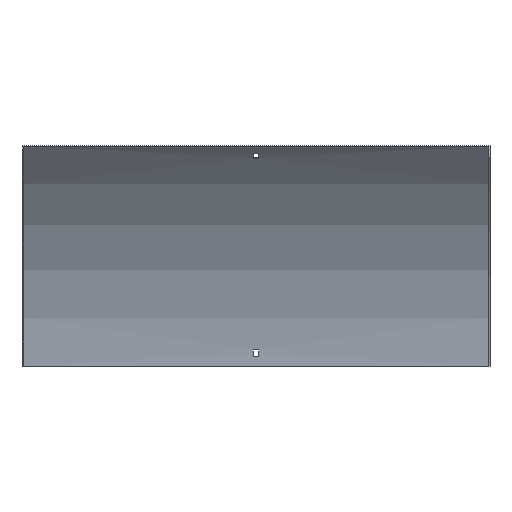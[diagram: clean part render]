
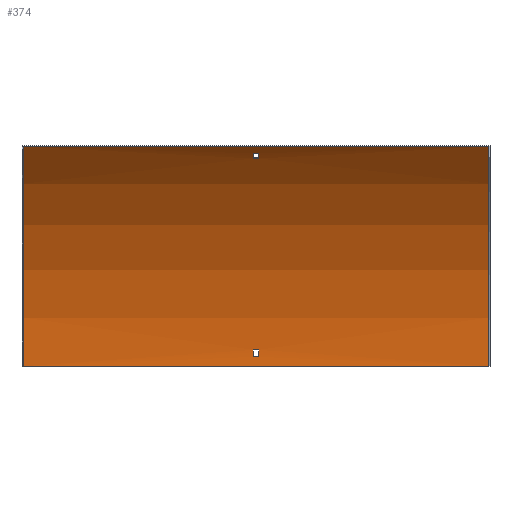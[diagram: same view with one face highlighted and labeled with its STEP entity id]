
A CAD part, front view. The second image highlights one B-rep face of the part: STEP entity #374.
In plain terms, the highlighted cylindrical face has radius 400 mm (diameter 800 mm), a partial arc.
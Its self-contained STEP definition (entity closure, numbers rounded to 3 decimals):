
#8 = EDGE_CURVE ( 'NONE', #412, #247, #390, .T. ) ;
#27 = DIRECTION ( 'NONE',  ( -1., 0., 0. ) ) ;
#32 = CARTESIAN_POINT ( 'NONE',  ( 301.5, -104.198, 267.603 ) ) ;
#58 = CARTESIAN_POINT ( 'NONE',  ( 301.5, -2.052, 21. ) ) ;
#59 = EDGE_CURVE ( 'NONE', #394, #255, #71, .T. ) ;
#63 = AXIS2_PLACEMENT_3D ( 'NONE', #83, #270, #222 ) ;
#71 = CIRCLE ( 'NONE', #576, 400. ) ;
#74 = DIRECTION ( 'NONE',  ( -1., 0., 0. ) ) ;
#75 = DIRECTION ( 'NONE',  ( -1., 0., 0. ) ) ;
#76 = CARTESIAN_POINT ( 'NONE',  ( -300., -1.5, 0. ) ) ;
#79 = FACE_BOUND ( 'NONE', #248, .T. ) ;
#83 = CARTESIAN_POINT ( 'NONE',  ( 301.5, -401.5, 0. ) ) ;
#86 = EDGE_CURVE ( 'NONE', #483, #394, #477, .T. ) ;
#87 = FACE_BOUND ( 'NONE', #434, .T. ) ;
#102 = ORIENTED_EDGE ( 'NONE', *, *, #86, .F. ) ;
#104 = VECTOR ( 'NONE', #142, 1000. ) ;
#107 = DIRECTION ( 'NONE',  ( 1., 0., 0. ) ) ;
#108 = VERTEX_POINT ( 'NONE', #404 ) ;
#115 = CARTESIAN_POINT ( 'NONE',  ( -3.25, -104.198, 267.603 ) ) ;
#118 = CARTESIAN_POINT ( 'NONE',  ( 300., -118.657, 282.843 ) ) ;
#121 = AXIS2_PLACEMENT_3D ( 'NONE', #174, #271, #126 ) ;
#126 = DIRECTION ( 'NONE',  ( 0., 0., -1. ) ) ;
#139 = FACE_OUTER_BOUND ( 'NONE', #216, .T. ) ;
#142 = DIRECTION ( 'NONE',  ( 1., 0., 0. ) ) ;
#150 = EDGE_CURVE ( 'NONE', #283, #412, #424, .T. ) ;
#156 = AXIS2_PLACEMENT_3D ( 'NONE', #402, #353, #251 ) ;
#160 = EDGE_CURVE ( 'NONE', #198, #561, #400, .T. ) ;
#166 = DIRECTION ( 'NONE',  ( 0., 0., -1. ) ) ;
#174 = CARTESIAN_POINT ( 'NONE',  ( -300., -401.5, 0. ) ) ;
#176 = ORIENTED_EDGE ( 'NONE', *, *, #301, .F. ) ;
#179 = DIRECTION ( 'NONE',  ( 0., 0., 1. ) ) ;
#184 = VERTEX_POINT ( 'NONE', #549 ) ;
#192 = ORIENTED_EDGE ( 'NONE', *, *, #457, .T. ) ;
#195 = EDGE_CURVE ( 'NONE', #199, #108, #284, .T. ) ;
#196 = CARTESIAN_POINT ( 'NONE',  ( 3.25, -401.5, 0. ) ) ;
#198 = VERTEX_POINT ( 'NONE', #76 ) ;
#199 = VERTEX_POINT ( 'NONE', #415 ) ;
#204 = AXIS2_PLACEMENT_3D ( 'NONE', #539, #373, #380 ) ;
#216 = EDGE_LOOP ( 'NONE', ( #292, #360, #304, #409 ) ) ;
#221 = CARTESIAN_POINT ( 'NONE',  ( -3.25, -1.68, 12. ) ) ;
#222 = DIRECTION ( 'NONE',  ( 0., 0., 1. ) ) ;
#233 = VECTOR ( 'NONE', #345, 1000. ) ;
#235 = VECTOR ( 'NONE', #501, 1000. ) ;
#243 = ORIENTED_EDGE ( 'NONE', *, *, #367, .F. ) ;
#247 = VERTEX_POINT ( 'NONE', #464 ) ;
#248 = EDGE_LOOP ( 'NONE', ( #243, #176, #329, #102 ) ) ;
#251 = DIRECTION ( 'NONE',  ( 0., 0., -1. ) ) ;
#252 = CIRCLE ( 'NONE', #204, 400. ) ;
#255 = VERTEX_POINT ( 'NONE', #333 ) ;
#256 = DIRECTION ( 'NONE',  ( -1., 0., 0. ) ) ;
#270 = DIRECTION ( 'NONE',  ( -1., 0., 0. ) ) ;
#271 = DIRECTION ( 'NONE',  ( 1., 0., 0. ) ) ;
#283 = VERTEX_POINT ( 'NONE', #115 ) ;
#284 = CIRCLE ( 'NONE', #342, 400. ) ;
#286 = VECTOR ( 'NONE', #75, 1000. ) ;
#287 = CARTESIAN_POINT ( 'NONE',  ( -300., -118.657, 282.843 ) ) ;
#292 = ORIENTED_EDGE ( 'NONE', *, *, #160, .F. ) ;
#299 = LINE ( 'NONE', #58, #300 ) ;
#300 = VECTOR ( 'NONE', #256, 1000. ) ;
#301 = EDGE_CURVE ( 'NONE', #255, #518, #299, .T. ) ;
#304 = ORIENTED_EDGE ( 'NONE', *, *, #195, .T. ) ;
#310 = CARTESIAN_POINT ( 'NONE',  ( 300., -1.5, 0. ) ) ;
#326 = CARTESIAN_POINT ( 'NONE',  ( 3.25, -1.68, 12. ) ) ;
#329 = ORIENTED_EDGE ( 'NONE', *, *, #59, .F. ) ;
#332 = LINE ( 'NONE', #310, #286 ) ;
#333 = CARTESIAN_POINT ( 'NONE',  ( 3.25, -2.052, 21. ) ) ;
#342 = AXIS2_PLACEMENT_3D ( 'NONE', #498, #544, #593 ) ;
#345 = DIRECTION ( 'NONE',  ( 1., 0., 0. ) ) ;
#351 = ORIENTED_EDGE ( 'NONE', *, *, #150, .T. ) ;
#353 = DIRECTION ( 'NONE',  ( 1., 0., 0. ) ) ;
#360 = ORIENTED_EDGE ( 'NONE', *, *, #378, .F. ) ;
#367 = EDGE_CURVE ( 'NONE', #518, #483, #252, .T. ) ;
#373 = DIRECTION ( 'NONE',  ( -1., 0., 0. ) ) ;
#374 = ADVANCED_FACE ( 'NONE', ( #79, #139, #87 ), #580, .F. ) ;
#378 = EDGE_CURVE ( 'NONE', #199, #198, #332, .T. ) ;
#380 = DIRECTION ( 'NONE',  ( 0., 0., 1. ) ) ;
#390 = LINE ( 'NONE', #587, #104 ) ;
#394 = VERTEX_POINT ( 'NONE', #326 ) ;
#400 = CIRCLE ( 'NONE', #121, 400. ) ;
#402 = CARTESIAN_POINT ( 'NONE',  ( -3.25, -401.5, 0. ) ) ;
#404 = CARTESIAN_POINT ( 'NONE',  ( 300., -118.657, 282.843 ) ) ;
#409 = ORIENTED_EDGE ( 'NONE', *, *, #478, .T. ) ;
#412 = VERTEX_POINT ( 'NONE', #548 ) ;
#415 = CARTESIAN_POINT ( 'NONE',  ( 300., -1.5, 0. ) ) ;
#424 = CIRCLE ( 'NONE', #156, 400. ) ;
#434 = EDGE_LOOP ( 'NONE', ( #192, #351, #572, #560 ) ) ;
#443 = CARTESIAN_POINT ( 'NONE',  ( 301.5, -1.68, 12. ) ) ;
#453 = CARTESIAN_POINT ( 'NONE',  ( -3.25, -2.052, 21. ) ) ;
#456 = AXIS2_PLACEMENT_3D ( 'NONE', #508, #27, #179 ) ;
#457 = EDGE_CURVE ( 'NONE', #184, #283, #547, .T. ) ;
#464 = CARTESIAN_POINT ( 'NONE',  ( 3.25, -110.299, 274.23 ) ) ;
#477 = LINE ( 'NONE', #443, #233 ) ;
#478 = EDGE_CURVE ( 'NONE', #108, #561, #545, .T. ) ;
#483 = VERTEX_POINT ( 'NONE', #221 ) ;
#498 = CARTESIAN_POINT ( 'NONE',  ( 300., -401.5, 0. ) ) ;
#501 = DIRECTION ( 'NONE',  ( -1., 0., 0. ) ) ;
#508 = CARTESIAN_POINT ( 'NONE',  ( 3.25, -401.5, 0. ) ) ;
#518 = VERTEX_POINT ( 'NONE', #453 ) ;
#529 = EDGE_CURVE ( 'NONE', #247, #184, #562, .T. ) ;
#534 = VECTOR ( 'NONE', #74, 1000. ) ;
#539 = CARTESIAN_POINT ( 'NONE',  ( -3.25, -401.5, 0. ) ) ;
#544 = DIRECTION ( 'NONE',  ( 1., 0., 0. ) ) ;
#545 = LINE ( 'NONE', #118, #534 ) ;
#547 = LINE ( 'NONE', #32, #235 ) ;
#548 = CARTESIAN_POINT ( 'NONE',  ( -3.25, -110.299, 274.23 ) ) ;
#549 = CARTESIAN_POINT ( 'NONE',  ( 3.25, -104.198, 267.603 ) ) ;
#560 = ORIENTED_EDGE ( 'NONE', *, *, #529, .T. ) ;
#561 = VERTEX_POINT ( 'NONE', #287 ) ;
#562 = CIRCLE ( 'NONE', #456, 400. ) ;
#572 = ORIENTED_EDGE ( 'NONE', *, *, #8, .T. ) ;
#576 = AXIS2_PLACEMENT_3D ( 'NONE', #196, #107, #166 ) ;
#580 = CYLINDRICAL_SURFACE ( 'NONE', #63, 400. ) ;
#587 = CARTESIAN_POINT ( 'NONE',  ( 301.5, -110.299, 274.23 ) ) ;
#593 = DIRECTION ( 'NONE',  ( 0., 0., -1. ) ) ;
